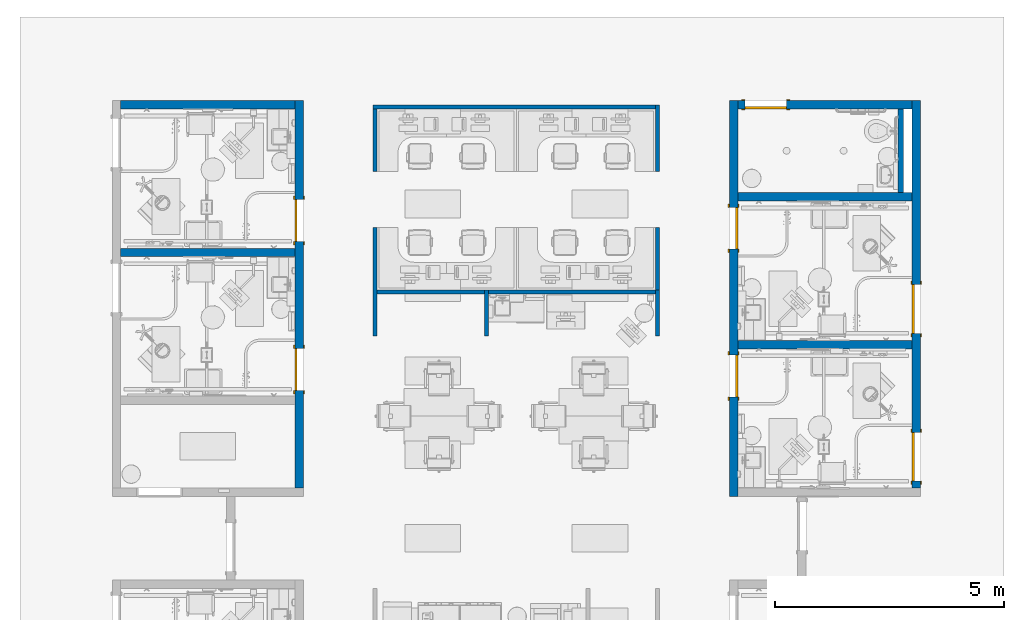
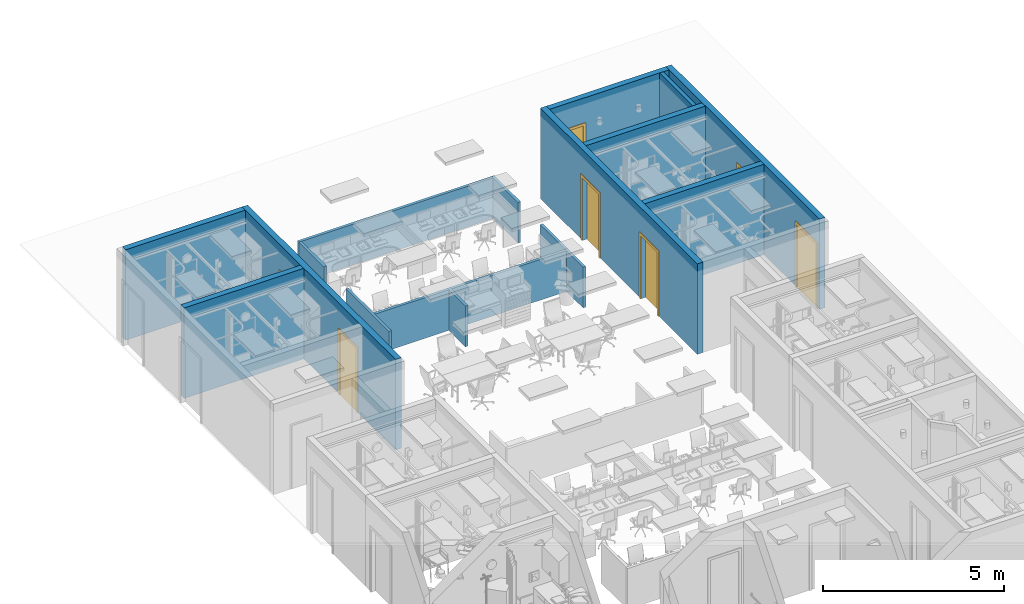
# One storey, part 3 of 142: 18 walls, 7 doors, 7 openings.
"""IFC2X3 building model written with IfcOpenShell, lengths in feet."""

from ifc_helpers import new_model, entity, si_unit, converted_unit, derived_unit, direction, frame, frame_2d, origin, place, context, subcontext, project, spatial, polyline, rectangle, outline, extrude, source, transform, mapped, material, layer, layer_set, layer_usage, type_object, type_shapes, element, fill, save


model = new_model("IFC2X3")

# Units and contexts
model_context = context("Model", 3, precision=0.0001, world=origin(), true_north=direction((6.12303176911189e-17, 1.0)))
body_context = subcontext(model_context, "Body", "Model", "MODEL_VIEW")
ifc_project = project(units=[converted_unit("LENGTHUNIT", "FOOT", entity("IfcRatioMeasure", 0.3048), si_unit("LENGTHUNIT", "METRE"), dimensions=[1, 0, 0, 0, 0, 0, 0]), converted_unit("AREAUNIT", "SQUARE FOOT", entity("IfcRatioMeasure", 0.09290304), si_unit("AREAUNIT", "SQUARE_METRE"), dimensions=[2, 0, 0, 0, 0, 0, 0]), converted_unit("VOLUMEUNIT", "CUBIC FOOT", entity("IfcRatioMeasure", 0.028316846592), si_unit("VOLUMEUNIT", "CUBIC_METRE"), dimensions=[3, 0, 0, 0, 0, 0, 0]), converted_unit("PLANEANGLEUNIT", "DEGREE", entity("IfcRatioMeasure", 0.0174532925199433), si_unit("PLANEANGLEUNIT", "RADIAN"), dimensions=[0, 0, 0, 0, 0, 0, 0]), si_unit("MASSUNIT", "GRAM", prefix="KILO"), derived_unit("MASSDENSITYUNIT", [(si_unit("MASSUNIT", "GRAM", prefix="KILO"), 1), (si_unit("LENGTHUNIT", "METRE"), -3)]), si_unit("TIMEUNIT", "SECOND"), si_unit("FREQUENCYUNIT", "HERTZ"), si_unit("THERMODYNAMICTEMPERATUREUNIT", "DEGREE_CELSIUS"), derived_unit("THERMALTRANSMITTANCEUNIT", [(si_unit("MASSUNIT", "GRAM", prefix="KILO"), 1), (si_unit("THERMODYNAMICTEMPERATUREUNIT", "KELVIN"), -1), (si_unit("TIMEUNIT", "SECOND"), -3)]), derived_unit("VOLUMETRICFLOWRATEUNIT", [(si_unit("LENGTHUNIT", "METRE"), 3), (si_unit("TIMEUNIT", "SECOND"), -1)]), si_unit("ELECTRICCURRENTUNIT", "AMPERE"), si_unit("ELECTRICVOLTAGEUNIT", "VOLT"), si_unit("POWERUNIT", "WATT"), si_unit("FORCEUNIT", "NEWTON"), si_unit("ILLUMINANCEUNIT", "LUX"), si_unit("LUMINOUSFLUXUNIT", "LUMEN"), si_unit("LUMINOUSINTENSITYUNIT", "CANDELA"), derived_unit("USERDEFINED", [(si_unit("MASSUNIT", "GRAM", prefix="KILO"), -1), (si_unit("LENGTHUNIT", "METRE"), -2), (si_unit("TIMEUNIT", "SECOND"), 3), (si_unit("LUMINOUSFLUXUNIT", "LUMEN"), 1)]), derived_unit("LINEARVELOCITYUNIT", [(si_unit("LENGTHUNIT", "METRE"), 1), (si_unit("TIMEUNIT", "SECOND"), -1)]), si_unit("PRESSUREUNIT", "PASCAL"), derived_unit("USERDEFINED", [(si_unit("LENGTHUNIT", "METRE"), -2), (si_unit("MASSUNIT", "GRAM", prefix="KILO"), 1), (si_unit("TIMEUNIT", "SECOND"), -2)])], contexts=[model_context])

# Site, building, storey
site_placement = place(None, origin())
site = spatial("IfcSite", under=ifc_project, at=site_placement, Name="Default", CompositionType="ELEMENT")
building_placement = place(site_placement, origin())
building = spatial("IfcBuilding", under=site, at=building_placement, Name="OUTPATIENT / PACT CLINIC (Ch. 265)", CompositionType="ELEMENT")
storey_placement = place(building_placement, origin())
storey = spatial("IfcBuildingStorey", under=building, at=storey_placement, Name="LEVEL 1", CompositionType="ELEMENT", Elevation=0.0)

# Wall, openings, doors
ifc_material = material(Name="<Unnamed>")
ifc_layer_1 = layer(ifc_material, 0.604166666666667)
ifc_layer_set_1 = layer_set([ifc_layer_1], Name="Basic Wall:Interior - 7 1/4\"")
ifc_layer_usage_1 = layer_usage(ifc_layer_set_1, "AXIS2", "NEGATIVE", 0.302083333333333)
wall_type_1 = type_object("IfcWallType", Name="Basic Wall:Interior - 7 1/4\"", PredefinedType="STANDARD", material=ifc_layer_set_1)
wall_1_placement = place(storey_placement, frame((403.765393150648, -903.628851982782, 0.0), z_axis=(0.0, 0.0, 1.0), x_axis=(0.0, 1.0, 0.0)))
wall_1 = element("IfcWallStandardCase", 1, at=wall_1_placement, inside=storey, type_object=wall_type_1, material=ifc_layer_usage_1, Name="Basic Wall:Interior - 7 1/4\"", ObjectType="Basic Wall:Interior - 7 1/4\"", context=body_context, shape_type="SweptSolid", body=[
    extrude(rectangle(XDim=27.8124990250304, YDim=0.604166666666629, at=frame_2d((13.9062495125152, 0.0), x_axis=(-1.0, 0.0))), origin(), (0.0, 0.0, 1.0), 9.99999999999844),
])
opening_1_placement = place(wall_1_placement, frame((7.01041569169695, -0.302083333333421, 0.0)))
opening_1 = element("IfcOpeningElement", 2, at=opening_1_placement, cuts=wall_1, Name="DOOR-Design-SGL:36\" x 84\":1", ObjectType="Opening", context=body_context, shape_type="SweptSolid", body=[
    extrude(rectangle(XDim=3.0, YDim=7.0, at=frame_2d((3.5, 1.5), x_axis=(0.0, -1.0))), frame((0.0, 0.0, 0.0), z_axis=(0.0, 1.0, 0.0), x_axis=(0.0, 0.0, 1.0)), (0.0, 0.0, 1.0), 0.604166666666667),
])
opening_2_placement = place(wall_1_placement, frame((17.7083323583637, -0.302083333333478, 0.0)))
opening_2 = element("IfcOpeningElement", 3, at=opening_2_placement, cuts=wall_1, Name="DOOR-Design-SGL:36\" x 84\":1", ObjectType="Opening", context=body_context, shape_type="SweptSolid", body=[
    extrude(rectangle(XDim=3.0, YDim=7.0, at=frame_2d((3.5, 1.5), x_axis=(0.0, -1.0))), frame((0.0, 0.0, 0.0), z_axis=(0.0, 1.0, 0.0), x_axis=(0.0, 0.0, 1.0)), (0.0, 0.0, 1.0), 0.604166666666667),
])
door_style_1 = type_object("IfcDoorStyle", Name="36\" x 84\"", ConstructionType="NOTDEFINED", OperationType="SINGLE_SWING_LEFT", ParameterTakesPrecedence=False, Sizeable=False)
shared_shape_1 = source(origin(), body_context, "Body", "SweptSolid", [
    extrude(outline(polyline([(-1.75, -3.6875), (1.75, -3.6875), (1.75, 3.5625), (1.5, 3.5625), (1.5, -3.43750000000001), (-1.5, -3.43750000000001), (-1.5, 3.5625), (-1.75, 3.5625), (-1.75, -3.6875)])), frame((1.5, 0.687499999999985, 3.5625), z_axis=(0.0, -1.0, 0.0), x_axis=(-1.0, 0.0, 0.0)), (0.0, 0.0, 1.0), 0.0833333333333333),
    extrude(outline(polyline([(-3.6875, -1.74999999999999), (3.5625, -1.74999999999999), (3.5625, -1.50000000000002), (-3.4375, -1.50000000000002), (-3.4375, 1.50000000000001), (3.5625, 1.50000000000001), (3.5625, 1.75000000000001), (-3.6875, 1.75000000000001), (-3.6875, -1.74999999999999)])), frame((1.49999999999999, 0.0, 3.5625), z_axis=(0.0, -1.0, 0.0), x_axis=(0.0, 0.0, -1.0)), (0.0, 0.0, 1.0), 0.0833333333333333),
    extrude(rectangle(XDim=3.0, YDim=0.166666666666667, at=frame_2d((0.0, -1.38777878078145e-17), x_axis=(1.0, 0.0))), frame((1.5, 0.520833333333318, 0.0)), (0.0, 0.0, 1.0), 7.0),
])
type_shapes(door_style_1, [shared_shape_1])
door_1_placement = place(opening_1_placement, origin())
door_1 = element("IfcDoor", 4, at=door_1_placement, inside=storey, type_object=door_style_1, Name="DOOR-Design-SGL:36\" x 84\"", ObjectType="36\" x 84\"", OverallHeight=7.0, OverallWidth=3.0, context=body_context, shape_type="MappedRepresentation", body=[
    mapped(shared_shape_1, transform((0.0, 0.0, 0.0), scale=1.0)),
])
fill(opening_1, door_1)
door_2_placement = place(opening_2_placement, origin())
door_2 = element("IfcDoor", 5, at=door_2_placement, inside=storey, type_object=door_style_1, Name="DOOR-Design-SGL:36\" x 84\"", ObjectType="36\" x 84\"", OverallHeight=7.0, OverallWidth=3.0, context=body_context, shape_type="MappedRepresentation", body=[
    mapped(shared_shape_1, transform((0.0, 0.0, 0.0), scale=1.0)),
])
fill(opening_2, door_2)

# Walls
ifc_layer_usage_2 = layer_usage(ifc_layer_set_1, "AXIS2", "NEGATIVE", 0.302083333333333)
wall_2_placement = place(storey_placement, frame((403.463309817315, -886.722602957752, 0.0), z_axis=(0.0, 0.0, 1.0), x_axis=(-1.0, 0.0, 0.0)))
element("IfcWallStandardCase", 6, at=wall_2_placement, inside=storey, type_object=wall_type_1, material=ifc_layer_usage_2, Name="Basic Wall:Interior - 7 1/4\"", ObjectType="Basic Wall:Interior - 7 1/4\"", context=body_context, shape_type="SweptSolid", body=[
    extrude(rectangle(XDim=12.4998599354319, YDim=0.604166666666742, at=frame_2d((6.24992996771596, 2.37587727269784e-14), x_axis=(-1.0, 0.0))), origin(), (0.0, 0.0, 1.0), 9.99999999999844),
])
ifc_layer_usage_3 = layer_usage(ifc_layer_set_1, "AXIS2", "NEGATIVE", 0.302083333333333)
wall_3_placement = place(storey_placement, frame((390.963449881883, -876.118436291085, 0.0)))
element("IfcWallStandardCase", 7, at=wall_3_placement, inside=storey, type_object=wall_type_1, material=ifc_layer_usage_3, Name="Basic Wall:Interior - 7 1/4\"", ObjectType="Basic Wall:Interior - 7 1/4\"", context=body_context, shape_type="SweptSolid", body=[
    extrude(rectangle(XDim=12.4998599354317, YDim=0.604166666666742, at=frame_2d((6.24992996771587, 0.0), x_axis=(-1.0, 0.0))), origin(), (0.0, 0.0, 1.0), 9.99999999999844),
])

# Wall, openings, doors
ifc_layer_usage_4 = layer_usage(ifc_layer_set_1, "AXIS2", "NEGATIVE", 0.302083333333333)
wall_4_placement = place(storey_placement, frame((434.952893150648, -875.816352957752, 0.0), z_axis=(0.0, 0.0, 1.0), x_axis=(0.0, -1.0, 0.0)))
wall_4 = element("IfcWallStandardCase", 8, at=wall_4_placement, inside=storey, type_object=wall_type_1, material=ifc_layer_usage_4, Name="Basic Wall:Interior - 7 1/4\"", ObjectType="Basic Wall:Interior - 7 1/4\"", context=body_context, shape_type="SweptSolid", body=[
    extrude(rectangle(XDim=28.4166656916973, YDim=0.604166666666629, at=frame_2d((14.2083328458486, 6.10622663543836e-16), x_axis=(-1.0, 0.0))), origin(), (0.0, 0.0, 1.0), 9.99999999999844),
])
opening_3_placement = place(wall_4_placement, frame((7.65622813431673, -0.302083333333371, 0.0)))
opening_3 = element("IfcOpeningElement", 9, at=opening_3_placement, cuts=wall_4, Name="DOOR-Design-SGL:36\" x 84\":1", ObjectType="Opening", context=body_context, shape_type="SweptSolid", body=[
    extrude(rectangle(XDim=3.0, YDim=7.0, at=frame_2d((3.5, 1.5), x_axis=(0.0, -1.0))), frame((0.0, 0.0, 0.0), z_axis=(0.0, 1.0, 0.0), x_axis=(0.0, 0.0, 1.0)), (0.0, 0.0, 1.0), 0.604166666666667),
])
opening_4_placement = place(wall_4_placement, frame((18.260285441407, -0.302083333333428, 0.0)))
opening_4 = element("IfcOpeningElement", 10, at=opening_4_placement, cuts=wall_4, Name="DOOR-Design-SGL:36\" x 84\":1", ObjectType="Opening", context=body_context, shape_type="SweptSolid", body=[
    extrude(rectangle(XDim=3.0, YDim=7.0, at=frame_2d((3.5, 1.5), x_axis=(0.0, -1.0))), frame((0.0, 0.0, 0.0), z_axis=(0.0, 1.0, 0.0), x_axis=(0.0, 0.0, 1.0)), (0.0, 0.0, 1.0), 0.604166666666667),
])
door_3_placement = place(opening_3_placement, origin())
door_3 = element("IfcDoor", 11, at=door_3_placement, inside=storey, type_object=door_style_1, Name="DOOR-Design-SGL:36\" x 84\"", ObjectType="36\" x 84\"", OverallHeight=7.0, OverallWidth=3.0, context=body_context, shape_type="MappedRepresentation", body=[
    mapped(shared_shape_1, transform((0.0, 0.0, 0.0), scale=1.0)),
])
fill(opening_3, door_3)
door_4_placement = place(opening_4_placement, origin())
door_4 = element("IfcDoor", 12, at=door_4_placement, inside=storey, type_object=door_style_1, Name="DOOR-Design-SGL:36\" x 84\"", ObjectType="36\" x 84\"", OverallHeight=7.0, OverallWidth=3.0, context=body_context, shape_type="MappedRepresentation", body=[
    mapped(shared_shape_1, transform((0.0, 0.0, 0.0), scale=1.0)),
])
fill(opening_4, door_4)

ifc_layer_usage_5 = layer_usage(ifc_layer_set_1, "AXIS2", "NEGATIVE", 0.302083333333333)
wall_5_placement = place(storey_placement, frame((448.057061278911, -875.816352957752, 0.0), z_axis=(0.0, 0.0, 1.0), x_axis=(0.0, -1.0, 0.0)))
wall_5 = element("IfcWallStandardCase", 13, at=wall_5_placement, inside=storey, type_object=wall_type_1, material=ifc_layer_usage_5, Name="Basic Wall:Interior - 7 1/4\"", ObjectType="Basic Wall:Interior - 7 1/4\"", context=body_context, shape_type="SweptSolid", body=[
    extrude(rectangle(XDim=27.8124990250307, YDim=0.604166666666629, at=frame_2d((13.9062495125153, 0.0), x_axis=(-1.0, 0.0))), origin(), (0.0, 0.0, 1.0), 9.99999999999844),
])
opening_5_placement = place(wall_5_placement, frame((16.7082021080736, 0.302083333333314, 0.0)))
opening_5 = element("IfcOpeningElement", 14, at=opening_5_placement, cuts=wall_5, Name="DOOR-Design-SGL:42\" x 84\":1", ObjectType="Opening", context=body_context, shape_type="SweptSolid", body=[
    extrude(rectangle(XDim=3.5, YDim=7.0, at=frame_2d((3.5, 1.75), x_axis=(0.0, -1.0))), frame((0.0, 0.0, 0.0), z_axis=(0.0, -1.0, 0.0), x_axis=(0.0, 0.0, 1.0)), (0.0, 0.0, 1.0), 0.604166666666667),
])
opening_6_placement = place(wall_5_placement, frame((27.3124990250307, 0.302083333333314, 0.0)))
opening_6 = element("IfcOpeningElement", 15, at=opening_6_placement, cuts=wall_5, Name="DOOR-Design-SGL:42\" x 84\":1", ObjectType="Opening", context=body_context, shape_type="SweptSolid", body=[
    extrude(rectangle(XDim=3.5, YDim=7.0, at=frame_2d((3.5, 1.75), x_axis=(0.0, -1.0))), frame((0.0, 0.0, 0.0), z_axis=(0.0, -1.0, 0.0), x_axis=(0.0, 0.0, 1.0)), (0.0, 0.0, 1.0), 0.604166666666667),
])
door_style_2 = type_object("IfcDoorStyle", Name="42\" x 84\"", ConstructionType="NOTDEFINED", OperationType="SINGLE_SWING_LEFT", ParameterTakesPrecedence=False, Sizeable=False)
shared_shape_2 = source(origin(), body_context, "Body", "SweptSolid", [
    extrude(outline(polyline([(-2.0, -3.6875), (2.0, -3.6875), (2.0, 3.5625), (1.75, 3.5625), (1.75, -3.43750000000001), (-1.75, -3.43750000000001), (-1.75, 3.5625), (-2.0, 3.5625), (-2.0, -3.6875)])), frame((1.75, 0.687499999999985, 3.5625), z_axis=(0.0, -1.0, 0.0), x_axis=(-1.0, 0.0, 0.0)), (0.0, 0.0, 1.0), 0.0833333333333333),
    extrude(outline(polyline([(-3.6875, -2.0), (3.5625, -2.0), (3.5625, -1.75000000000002), (-3.4375, -1.75000000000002), (-3.4375, 1.75000000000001), (3.5625, 1.75000000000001), (3.5625, 2.0), (-3.6875, 2.0), (-3.6875, -2.0)])), frame((1.74999999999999, 0.0, 3.5625), z_axis=(0.0, -1.0, 0.0), x_axis=(0.0, 0.0, -1.0)), (0.0, 0.0, 1.0), 0.0833333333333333),
    extrude(rectangle(XDim=3.5, YDim=0.166666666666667, at=frame_2d((0.0, -1.38777878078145e-17), x_axis=(1.0, 0.0))), frame((1.75, 0.520833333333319, 0.0)), (0.0, 0.0, 1.0), 7.0),
])
type_shapes(door_style_2, [shared_shape_2])
door_5_placement = place(opening_5_placement, frame((0.0, 0.0, 0.0), z_axis=(0.0, 0.0, 1.0), x_axis=(-1.0, 0.0, 0.0)))
door_5 = element("IfcDoor", 16, at=door_5_placement, inside=storey, type_object=door_style_2, Name="DOOR-Design-SGL:42\" x 84\"", ObjectType="42\" x 84\"", OverallHeight=7.0, OverallWidth=3.5, context=body_context, shape_type="MappedRepresentation", body=[
    mapped(shared_shape_2, transform((0.0, 0.0, 0.0), scale=1.0)),
])
fill(opening_5, door_5)
door_6_placement = place(opening_6_placement, frame((0.0, 0.0, 0.0), z_axis=(0.0, 0.0, 1.0), x_axis=(-1.0, 0.0, 0.0)))
door_6 = element("IfcDoor", 17, at=door_6_placement, inside=storey, type_object=door_style_2, Name="DOOR-Design-SGL:42\" x 84\"", ObjectType="42\" x 84\"", OverallHeight=7.0, OverallWidth=3.5, context=body_context, shape_type="MappedRepresentation", body=[
    mapped(shared_shape_2, transform((0.0, 0.0, 0.0), scale=1.0)),
])
fill(opening_6, door_6)

# Walls
ifc_layer_usage_6 = layer_usage(ifc_layer_set_1, "AXIS2", "NEGATIVE", 0.302083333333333)
wall_6_placement = place(storey_placement, frame((435.254976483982, -882.722581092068, 0.0)))
element("IfcWallStandardCase", 18, at=wall_6_placement, inside=storey, type_object=wall_type_1, material=ifc_layer_usage_6, Name="Basic Wall:Interior - 7 1/4\"", ObjectType="Basic Wall:Interior - 7 1/4\"", context=body_context, shape_type="SweptSolid", body=[
    extrude(rectangle(XDim=12.5000014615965, YDim=0.604166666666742, at=frame_2d((6.25000073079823, 0.0), x_axis=(-1.0, 0.0))), origin(), (0.0, 0.0, 1.0), 9.99999999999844),
])
ifc_layer_usage_7 = layer_usage(ifc_layer_set_1, "AXIS2", "NEGATIVE", 0.302083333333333)
wall_7_placement = place(storey_placement, frame((435.254976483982, -893.326638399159, 0.0)))
element("IfcWallStandardCase", 19, at=wall_7_placement, inside=storey, type_object=wall_type_1, material=ifc_layer_usage_7, Name="Basic Wall:Interior - 7 1/4\"", ObjectType="Basic Wall:Interior - 7 1/4\"", context=body_context, shape_type="SweptSolid", body=[
    extrude(rectangle(XDim=12.5000014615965, YDim=0.604166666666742, at=frame_2d((6.25000073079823, 2.02060590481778e-14), x_axis=(-1.0, 0.0))), origin(), (0.0, 0.0, 1.0), 9.99999999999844),
])

# Wall, opening, door
ifc_layer_usage_8 = layer_usage(ifc_layer_set_1, "AXIS2", "NEGATIVE", 0.302083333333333)
wall_8_placement = place(storey_placement, frame((435.254976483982, -876.118436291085, 0.0)))
wall_8 = element("IfcWallStandardCase", 20, at=wall_8_placement, inside=storey, type_object=wall_type_1, material=ifc_layer_usage_8, Name="Basic Wall:Interior - 7 1/4\"", ObjectType="Basic Wall:Interior - 7 1/4\"", context=body_context, shape_type="SweptSolid", body=[
    extrude(rectangle(XDim=12.5000014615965, YDim=0.604166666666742, at=frame_2d((6.25000073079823, 0.0), x_axis=(-1.0, 0.0))), origin(), (0.0, 0.0, 1.0), 9.99999999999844),
])
opening_7_placement = place(wall_8_placement, frame((3.5, 0.302083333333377, 0.0)))
opening_7 = element("IfcOpeningElement", 21, at=opening_7_placement, cuts=wall_8, Name="DOOR-Design-SGL:36\" x 84\":1", ObjectType="Opening", context=body_context, shape_type="SweptSolid", body=[
    extrude(rectangle(XDim=3.0, YDim=7.0, at=frame_2d((3.5, 1.5), x_axis=(0.0, 1.0))), frame((0.0, 0.0, 0.0), z_axis=(0.0, -1.0, 0.0), x_axis=(0.0, 0.0, 1.0)), (0.0, 0.0, 1.0), 0.604166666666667),
])
door_style_3 = type_object("IfcDoorStyle", Name="36\" x 84\"", ConstructionType="NOTDEFINED", OperationType="SINGLE_SWING_RIGHT", ParameterTakesPrecedence=False, Sizeable=False)
shared_shape_3 = source(origin(), body_context, "Body", "SweptSolid", [
    extrude(outline(polyline([(-1.75, -3.6875), (1.75, -3.6875), (1.75, 3.5625), (1.5, 3.5625), (1.5, -3.43750000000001), (-1.5, -3.43750000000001), (-1.5, 3.5625), (-1.75, 3.5625), (-1.75, -3.6875)])), frame((1.5, 0.60416666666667, 3.5625), z_axis=(0.0, 1.0, 0.0), x_axis=(1.0, 0.0, 0.0)), (0.0, 0.0, 1.0), 0.0833333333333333),
    extrude(outline(polyline([(-3.6875, -1.74999999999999), (3.5625, -1.74999999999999), (3.5625, -1.50000000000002), (-3.4375, -1.50000000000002), (-3.4375, 1.50000000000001), (3.5625, 1.50000000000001), (3.5625, 1.75000000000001), (-3.6875, 1.75000000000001), (-3.6875, -1.74999999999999)])), frame((1.50000000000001, -0.0833333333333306, 3.5625), z_axis=(0.0, 1.0, 0.0), x_axis=(0.0, 0.0, -1.0)), (0.0, 0.0, 1.0), 0.0833333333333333),
    extrude(rectangle(XDim=0.166666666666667, YDim=3.0, at=frame_2d((1.38777878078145e-17, 0.0), x_axis=(1.0, 0.0))), frame((1.5, 0.520833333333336, 0.0), z_axis=(0.0, 0.0, 1.0), x_axis=(0.0, 1.0, 0.0)), (0.0, 0.0, 1.0), 7.0),
])
type_shapes(door_style_3, [shared_shape_3])
door_7_placement = place(opening_7_placement, frame((0.0, 0.0, 0.0), z_axis=(0.0, 0.0, 1.0), x_axis=(-1.0, 0.0, 0.0)))
door_7 = element("IfcDoor", 22, at=door_7_placement, inside=storey, type_object=door_style_3, Name="DOOR-Design-SGL:36\" x 84\"", ObjectType="36\" x 84\"", OverallHeight=7.0, OverallWidth=3.0, context=body_context, shape_type="MappedRepresentation", body=[
    mapped(shared_shape_3, transform((0.0, 0.0, 0.0), scale=1.0)),
])
fill(opening_7, door_7)

# Walls
ifc_layer_2 = layer(ifc_material, 0.291666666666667)
ifc_layer_set_2 = layer_set([ifc_layer_2], Name="Basic Wall:Systems Furniture Partition")
ifc_layer_usage_9 = layer_usage(ifc_layer_set_2, "AXIS2", "NEGATIVE", 0.145833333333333)
wall_type_2 = type_object("IfcWallType", Name="Basic Wall:Systems Furniture Partition", PredefinedType="STANDARD", material=ifc_layer_set_2)
wall_9_placement = place(storey_placement, frame((409.067616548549, -876.274686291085, 0.0)))
element("IfcWallStandardCase", 23, at=wall_9_placement, inside=storey, type_object=wall_type_2, material=ifc_layer_usage_9, Name="Basic Wall:Systems Furniture Partition", ObjectType="Basic Wall:Systems Furniture Partition", context=body_context, shape_type="SweptSolid", body=[
    extrude(rectangle(XDim=20.2915266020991, YDim=0.291666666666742, at=frame_2d((10.1457633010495, -2.71449529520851e-14), x_axis=(-1.0, 0.0))), origin(), (0.0, 0.0, 1.0), 4.5),
])
ifc_layer_usage_10 = layer_usage(ifc_layer_set_2, "AXIS2", "NEGATIVE", 0.145833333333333)
wall_10_placement = place(storey_placement, frame((409.213449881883, -876.420519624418, 0.0), z_axis=(0.0, 0.0, 1.0), x_axis=(0.0, -1.0, 0.0)))
element("IfcWallStandardCase", 24, at=wall_10_placement, inside=storey, type_object=wall_type_2, material=ifc_layer_usage_10, Name="Basic Wall:Systems Furniture Partition", ObjectType="Basic Wall:Systems Furniture Partition", context=body_context, shape_type="SweptSolid", body=[
    extrude(rectangle(XDim=4.5, YDim=0.291666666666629, at=frame_2d((2.25, 0.0), x_axis=(-1.0, 0.0))), origin(), (0.0, 0.0, 1.0), 4.5),
])
ifc_layer_usage_11 = layer_usage(ifc_layer_set_2, "AXIS2", "NEGATIVE", 0.145833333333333)
wall_11_placement = place(storey_placement, frame((429.504976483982, -876.128852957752, 0.0), z_axis=(0.0, 0.0, 1.0), x_axis=(0.0, -1.0, 0.0)))
element("IfcWallStandardCase", 25, at=wall_11_placement, inside=storey, type_object=wall_type_2, material=ifc_layer_usage_11, Name="Basic Wall:Systems Furniture Partition", ObjectType="Basic Wall:Systems Furniture Partition", context=body_context, shape_type="SweptSolid", body=[
    extrude(rectangle(XDim=4.79166666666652, YDim=0.291666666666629, at=frame_2d((2.39583333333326, 0.0), x_axis=(-1.0, 0.0))), origin(), (0.0, 0.0, 1.0), 4.5),
])
ifc_layer_usage_12 = layer_usage(ifc_layer_set_2, "AXIS2", "POSITIVE", -0.145833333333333)
wall_12_placement = place(storey_placement, frame((409.359283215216, -889.566324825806, 0.0)))
element("IfcWallStandardCase", 26, at=wall_12_placement, inside=storey, type_object=wall_type_2, material=ifc_layer_usage_12, Name="Basic Wall:Systems Furniture Partition", ObjectType="Basic Wall:Systems Furniture Partition", context=body_context, shape_type="SweptSolid", body=[
    extrude(rectangle(XDim=7.70833333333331, YDim=0.291666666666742, at=frame_2d((3.85416666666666, -1.12826414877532e-14), x_axis=(-1.0, 0.0))), origin(), (0.0, 0.0, 1.0), 4.5),
])
ifc_layer_usage_13 = layer_usage(ifc_layer_set_2, "AXIS2", "POSITIVE", -0.145833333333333)
wall_13_placement = place(storey_placement, frame((409.213449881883, -892.712158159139, 0.0), z_axis=(0.0, 0.0, 1.0), x_axis=(0.0, 1.0, 0.0)))
element("IfcWallStandardCase", 27, at=wall_13_placement, inside=storey, type_object=wall_type_2, material=ifc_layer_usage_13, Name="Basic Wall:Systems Furniture Partition", ObjectType="Basic Wall:Systems Furniture Partition", context=body_context, shape_type="SweptSolid", body=[
    extrude(rectangle(XDim=7.79166666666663, YDim=0.291666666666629, at=frame_2d((3.89583333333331, 0.0), x_axis=(-1.0, 0.0))), origin(), (0.0, 0.0, 1.0), 4.5),
])
ifc_layer_usage_14 = layer_usage(ifc_layer_set_2, "AXIS2", "POSITIVE", -0.145833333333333)
wall_14_placement = place(storey_placement, frame((429.505116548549, -892.712158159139, 0.0), z_axis=(0.0, 0.0, 1.0), x_axis=(0.0, 1.0, 0.0)))
element("IfcWallStandardCase", 28, at=wall_14_placement, inside=storey, type_object=wall_type_2, material=ifc_layer_usage_14, Name="Basic Wall:Systems Furniture Partition", ObjectType="Basic Wall:Systems Furniture Partition", context=body_context, shape_type="SweptSolid", body=[
    extrude(rectangle(XDim=3.29166666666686, YDim=0.291666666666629, at=frame_2d((1.64583333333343, 0.0), x_axis=(-1.0, 0.0))), origin(), (0.0, 0.0, 1.0), 4.5),
])
ifc_layer_usage_15 = layer_usage(ifc_layer_set_2, "AXIS2", "NEGATIVE", 0.145833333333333)
wall_15_placement = place(storey_placement, frame((417.213449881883, -889.420491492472, 0.0), z_axis=(0.0, 0.0, 1.0), x_axis=(0.0, -1.0, 0.0)))
element("IfcWallStandardCase", 29, at=wall_15_placement, inside=storey, type_object=wall_type_2, material=ifc_layer_usage_15, Name="Basic Wall:Systems Furniture Partition", ObjectType="Basic Wall:Systems Furniture Partition", context=body_context, shape_type="SweptSolid", body=[
    extrude(rectangle(XDim=3.29166666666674, YDim=0.291666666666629, at=frame_2d((1.64583333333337, 0.0), x_axis=(-1.0, 0.0))), origin(), (0.0, 0.0, 1.0), 4.5),
])
ifc_layer_usage_16 = layer_usage(ifc_layer_set_2, "AXIS2", "POSITIVE", -0.145833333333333)
wall_16_placement = place(storey_placement, frame((417.359283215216, -889.566324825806, 0.0)))
element("IfcWallStandardCase", 30, at=wall_16_placement, inside=storey, type_object=wall_type_2, material=ifc_layer_usage_16, Name="Basic Wall:Systems Furniture Partition", ObjectType="Basic Wall:Systems Furniture Partition", context=body_context, shape_type="SweptSolid", body=[
    extrude(rectangle(XDim=12.0, YDim=0.291666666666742, at=frame_2d((6.0, 3.92741394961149e-14), x_axis=(-1.0, 0.0))), origin(), (0.0, 0.0, 1.0), 4.5),
])
ifc_layer_usage_17 = layer_usage(ifc_layer_set_2, "AXIS2", "POSITIVE", -0.145833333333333)
wall_17_placement = place(storey_placement, frame((429.505116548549, -889.420491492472, 0.0), z_axis=(0.0, 0.0, 1.0), x_axis=(0.0, 1.0, 0.0)))
element("IfcWallStandardCase", 31, at=wall_17_placement, inside=storey, type_object=wall_type_2, material=ifc_layer_usage_17, Name="Basic Wall:Systems Furniture Partition", ObjectType="Basic Wall:Systems Furniture Partition", context=body_context, shape_type="SweptSolid", body=[
    extrude(rectangle(XDim=4.49999999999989, YDim=0.291666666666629, at=frame_2d((2.24999999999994, 0.0), x_axis=(-1.0, 0.0))), origin(), (0.0, 0.0, 1.0), 4.5),
])
ifc_layer_3 = layer(ifc_material, 0.40625)
ifc_layer_set_3 = layer_set([ifc_layer_3], Name="Basic Wall:Interior - 4 7/8\"")
ifc_layer_usage_18 = layer_usage(ifc_layer_set_3, "AXIS2", "NEGATIVE", 0.203125)
wall_type_3 = type_object("IfcWallType", Name="Basic Wall:Interior - 4 7/8\"", PredefinedType="STANDARD", material=ifc_layer_set_3)
wall_18_placement = place(storey_placement, frame((446.958101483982, -876.420519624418, 0.0), z_axis=(0.0, 0.0, 1.0), x_axis=(0.0, -1.0, 0.0)))
element("IfcWallStandardCase", 32, at=wall_18_placement, inside=storey, type_object=wall_type_3, material=ifc_layer_usage_18, Name="Basic Wall:Interior - 4 7/8\"", ObjectType="Basic Wall:Interior - 4 7/8\"", context=body_context, shape_type="SweptSolid", body=[
    extrude(rectangle(XDim=5.99997813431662, YDim=0.40625, at=frame_2d((2.99998906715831, 3.42781358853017e-15), x_axis=(-1.0, 0.0))), origin(), (0.0, 0.0, 1.0), 9.99999999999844),
])

save(model, "model.ifc")
